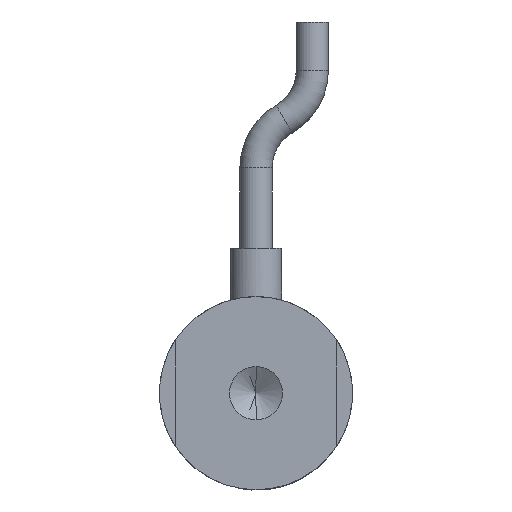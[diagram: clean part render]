
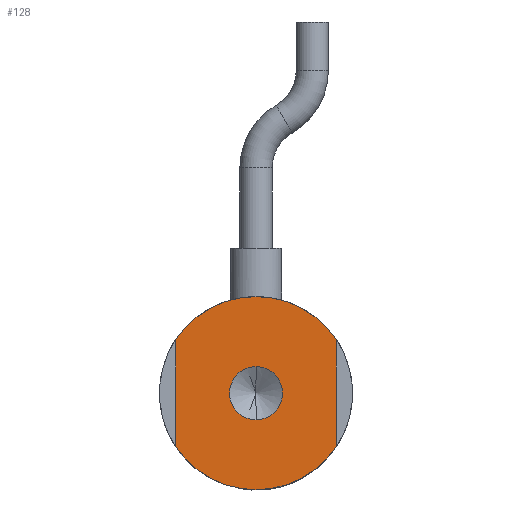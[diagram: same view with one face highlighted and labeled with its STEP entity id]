
A CAD part, front view. The second image highlights one B-rep face of the part: STEP entity #128.
In plain terms, the highlighted planar face has unit normal (0, -1, 0).
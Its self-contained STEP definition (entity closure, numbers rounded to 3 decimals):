
#128 = ADVANCED_FACE ( 'NONE', ( #33589, #42387 ), #21253, .F. ) ;
#684 = ORIENTED_EDGE ( 'NONE', *, *, #16786, .F. ) ;
#814 = VERTEX_POINT ( 'NONE', #2791 ) ;
#1616 = VERTEX_POINT ( 'NONE', #38272 ) ;
#2154 = CARTESIAN_POINT ( 'NONE',  ( -5., 0., 0. ) ) ;
#2278 = ORIENTED_EDGE ( 'NONE', *, *, #28595, .F. ) ;
#2342 = CARTESIAN_POINT ( 'NONE',  ( 0., 0., 0. ) ) ;
#2371 = VERTEX_POINT ( 'NONE', #40673 ) ;
#2762 = AXIS2_PLACEMENT_3D ( 'NONE', #39461, #19731, #19459 ) ;
#2791 = CARTESIAN_POINT ( 'NONE',  ( 0., 0., 1.65 ) ) ;
#2986 = ORIENTED_EDGE ( 'NONE', *, *, #36482, .F. ) ;
#3476 = CIRCLE ( 'NONE', #18131, 6. ) ;
#5903 = DIRECTION ( 'NONE',  ( 0., 0., 1. ) ) ;
#6088 = CARTESIAN_POINT ( 'NONE',  ( 0., 0., -1.65 ) ) ;
#6159 = CIRCLE ( 'NONE', #28839, 1.65 ) ;
#6655 = ORIENTED_EDGE ( 'NONE', *, *, #21996, .F. ) ;
#7003 = VERTEX_POINT ( 'NONE', #24137 ) ;
#7309 = VECTOR ( 'NONE', #26037, 1000. ) ;
#7416 = DIRECTION ( 'NONE',  ( 0., 0., -1. ) ) ;
#7846 = VECTOR ( 'NONE', #7416, 1000. ) ;
#9074 = EDGE_CURVE ( 'NONE', #39339, #814, #6159, .T. ) ;
#9963 = ORIENTED_EDGE ( 'NONE', *, *, #17559, .F. ) ;
#10001 = AXIS2_PLACEMENT_3D ( 'NONE', #39604, #20051, #42962 ) ;
#10041 = ORIENTED_EDGE ( 'NONE', *, *, #24187, .F. ) ;
#10605 = AXIS2_PLACEMENT_3D ( 'NONE', #34242, #14525, #37498 ) ;
#11000 = CARTESIAN_POINT ( 'NONE',  ( 0., 0., 0. ) ) ;
#11064 = VERTEX_POINT ( 'NONE', #37006 ) ;
#11313 = CIRCLE ( 'NONE', #26918, 6. ) ;
#11955 = EDGE_LOOP ( 'NONE', ( #9963, #2278, #10041, #14476, #684, #2986 ) ) ;
#14476 = ORIENTED_EDGE ( 'NONE', *, *, #39942, .F. ) ;
#14525 = DIRECTION ( 'NONE',  ( 0., 1., 0. ) ) ;
#14540 = DIRECTION ( 'NONE',  ( 0., 0., 1. ) ) ;
#14550 = VERTEX_POINT ( 'NONE', #43447 ) ;
#15261 = CARTESIAN_POINT ( 'NONE',  ( 0., 0., 0. ) ) ;
#16786 = EDGE_CURVE ( 'NONE', #1616, #32948, #3476, .T. ) ;
#17559 = EDGE_CURVE ( 'NONE', #7003, #11064, #26367, .T. ) ;
#18131 = AXIS2_PLACEMENT_3D ( 'NONE', #18851, #41789, #22132 ) ;
#18643 = DIRECTION ( 'NONE',  ( 0., 0., -1. ) ) ;
#18851 = CARTESIAN_POINT ( 'NONE',  ( 0., 0., 0. ) ) ;
#19340 = AXIS2_PLACEMENT_3D ( 'NONE', #2342, #26228, #5903 ) ;
#19459 = DIRECTION ( 'NONE',  ( 0., 0., 1. ) ) ;
#19731 = DIRECTION ( 'NONE',  ( 0., 1., 0. ) ) ;
#20051 = DIRECTION ( 'NONE',  ( 0., -1., 0. ) ) ;
#21253 = PLANE ( 'NONE',  #2762 ) ;
#21996 = EDGE_CURVE ( 'NONE', #814, #39339, #26605, .T. ) ;
#22132 = DIRECTION ( 'NONE',  ( 0., 0., 1. ) ) ;
#24137 = CARTESIAN_POINT ( 'NONE',  ( -5., 0., -3.317 ) ) ;
#24187 = EDGE_CURVE ( 'NONE', #14550, #2371, #35269, .T. ) ;
#24815 = LINE ( 'NONE', #24922, #7846 ) ;
#24922 = CARTESIAN_POINT ( 'NONE',  ( 5., 0., 0. ) ) ;
#26037 = DIRECTION ( 'NONE',  ( 0., 0., 1. ) ) ;
#26228 = DIRECTION ( 'NONE',  ( 0., 1., 0. ) ) ;
#26367 = LINE ( 'NONE', #2154, #7309 ) ;
#26605 = CIRCLE ( 'NONE', #10001, 1.65 ) ;
#26918 = AXIS2_PLACEMENT_3D ( 'NONE', #11000, #34262, #14540 ) ;
#28595 = EDGE_CURVE ( 'NONE', #2371, #7003, #11313, .T. ) ;
#28839 = AXIS2_PLACEMENT_3D ( 'NONE', #15261, #38169, #18643 ) ;
#30704 = EDGE_LOOP ( 'NONE', ( #42729, #6655 ) ) ;
#32948 = VERTEX_POINT ( 'NONE', #35196 ) ;
#33589 = FACE_BOUND ( 'NONE', #30704, .T. ) ;
#34242 = CARTESIAN_POINT ( 'NONE',  ( 0., 0., 0. ) ) ;
#34262 = DIRECTION ( 'NONE',  ( 0., 1., 0. ) ) ;
#35196 = CARTESIAN_POINT ( 'NONE',  ( 5., 0., 3.317 ) ) ;
#35269 = CIRCLE ( 'NONE', #10605, 6. ) ;
#36482 = EDGE_CURVE ( 'NONE', #11064, #1616, #37671, .T. ) ;
#37006 = CARTESIAN_POINT ( 'NONE',  ( -5., 0., 3.317 ) ) ;
#37498 = DIRECTION ( 'NONE',  ( 0., 0., 1. ) ) ;
#37671 = CIRCLE ( 'NONE', #19340, 6. ) ;
#38169 = DIRECTION ( 'NONE',  ( 0., -1., 0. ) ) ;
#38272 = CARTESIAN_POINT ( 'NONE',  ( 0., 0., 6. ) ) ;
#39339 = VERTEX_POINT ( 'NONE', #6088 ) ;
#39461 = CARTESIAN_POINT ( 'NONE',  ( 0., 0., 0. ) ) ;
#39604 = CARTESIAN_POINT ( 'NONE',  ( 0., 0., 0. ) ) ;
#39942 = EDGE_CURVE ( 'NONE', #32948, #14550, #24815, .T. ) ;
#40673 = CARTESIAN_POINT ( 'NONE',  ( 0., 0., -6. ) ) ;
#41789 = DIRECTION ( 'NONE',  ( 0., 1., 0. ) ) ;
#42387 = FACE_OUTER_BOUND ( 'NONE', #11955, .T. ) ;
#42729 = ORIENTED_EDGE ( 'NONE', *, *, #9074, .F. ) ;
#42962 = DIRECTION ( 'NONE',  ( 0., 0., -1. ) ) ;
#43447 = CARTESIAN_POINT ( 'NONE',  ( 5., 0., -3.317 ) ) ;
